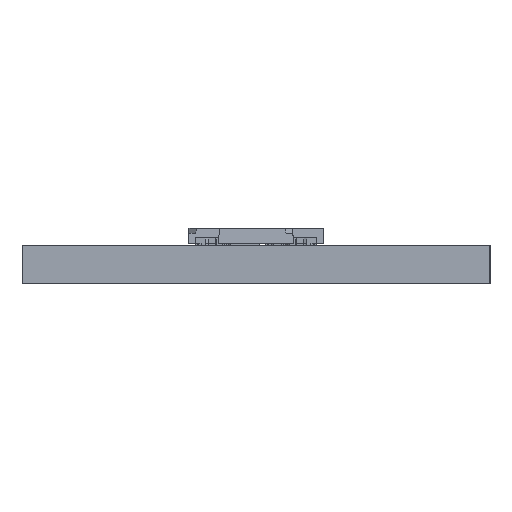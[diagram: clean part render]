
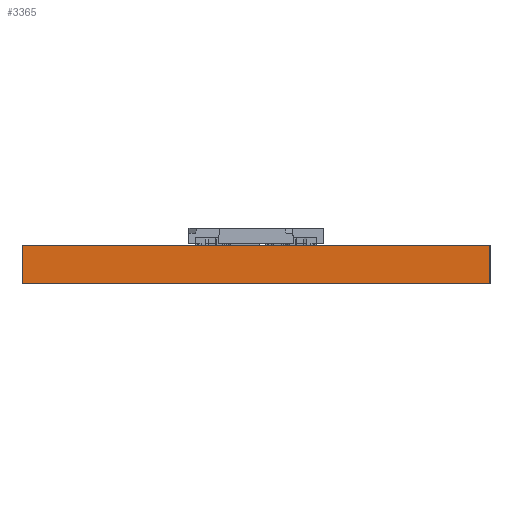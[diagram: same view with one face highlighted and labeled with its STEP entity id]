
A CAD part, left-side view. The second image highlights one B-rep face of the part: STEP entity #3365.
In plain terms, the highlighted planar face has unit normal (-1, 0, 0).
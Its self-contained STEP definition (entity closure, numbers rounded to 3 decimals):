
#1416=CARTESIAN_POINT('Vertex',(-17.,10.,0.025)) ;
#1419=CARTESIAN_POINT('Line Origine',(-17.,0.,0.025)) ;
#1423=CARTESIAN_POINT('Vertex',(-17.,-10.,0.025)) ;
#2321=CARTESIAN_POINT('Vertex',(-17.,-10.,-1.6)) ;
#2326=CARTESIAN_POINT('Line Origine',(-17.,0.,-1.6)) ;
#2330=CARTESIAN_POINT('Vertex',(-17.,10.,-1.6)) ;
#3309=CARTESIAN_POINT('Line Origine',(-17.,10.,-0.788)) ;
#3349=CARTESIAN_POINT('Axis2P3D Location',(-17.,-10.,0.)) ;
#3354=CARTESIAN_POINT('Line Origine',(-17.,-10.,-0.788)) ;
#1420=DIRECTION('Vector Direction',(0.,-1.,0.)) ;
#2327=DIRECTION('Vector Direction',(0.,1.,0.)) ;
#3310=DIRECTION('Vector Direction',(0.,0.,-1.)) ;
#3350=DIRECTION('Axis2P3D Direction',(-1.,0.,0.)) ;
#3351=DIRECTION('Axis2P3D XDirection',(0.,1.,0.)) ;
#3355=DIRECTION('Vector Direction',(0.,0.,-1.)) ;
#3352=AXIS2_PLACEMENT_3D('Plane Axis2P3D',#3349,#3350,#3351) ;
#3360=ORIENTED_EDGE('',*,*,#3313,.T.) ;
#3361=ORIENTED_EDGE('',*,*,#2332,.T.) ;
#3362=ORIENTED_EDGE('',*,*,#3358,.F.) ;
#3363=ORIENTED_EDGE('',*,*,#1425,.F.) ;
#1421=VECTOR('Line Direction',#1420,1.) ;
#2328=VECTOR('Line Direction',#2327,1.) ;
#3311=VECTOR('Line Direction',#3310,1.) ;
#3356=VECTOR('Line Direction',#3355,1.) ;
#3365=ADVANCED_FACE('PWB',(#3364),#3353,.T.) ;
#1425=EDGE_CURVE('',#1417,#1424,#1422,.T.) ;
#2332=EDGE_CURVE('',#2331,#2322,#2329,.F.) ;
#3313=EDGE_CURVE('',#1417,#2331,#3312,.T.) ;
#3358=EDGE_CURVE('',#1424,#2322,#3357,.T.) ;
#3359=EDGE_LOOP('',(#3360,#3361,#3362,#3363)) ;
#3364=FACE_OUTER_BOUND('',#3359,.T.) ;
#1422=LINE('Line',#1419,#1421) ;
#2329=LINE('Line',#2326,#2328) ;
#3312=LINE('Line',#3309,#3311) ;
#3357=LINE('Line',#3354,#3356) ;
#3353=PLANE('',#3352) ;
#1417=VERTEX_POINT('',#1416) ;
#1424=VERTEX_POINT('',#1423) ;
#2322=VERTEX_POINT('',#2321) ;
#2331=VERTEX_POINT('',#2330) ;
